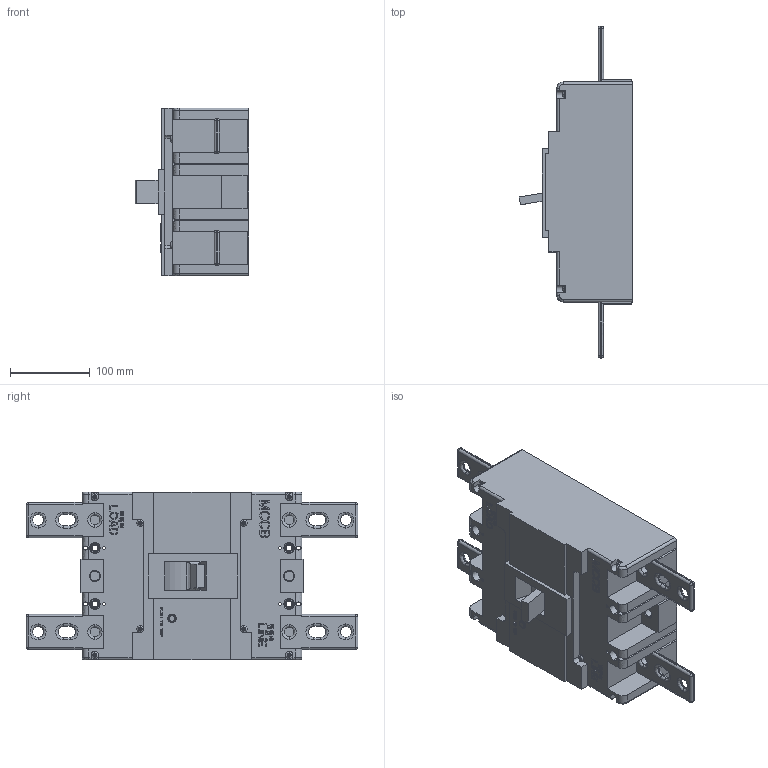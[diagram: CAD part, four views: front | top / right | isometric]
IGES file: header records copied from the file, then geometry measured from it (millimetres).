
Start section:  PTC IGES file: 26-metasol-mccb-800af-abl602c.igs
Global section: file name: 26-metasol-mccb-800af-abl602c.igs; native system: Pro/ENGINEER by Parametric Technology Corporation; preprocessor: 2010280; author: mgkimb; organization: Unknown; date: 20131029.143431; units: millimetre
Bounding box: 142.07 x 415 x 210 mm (x, y, z)
Surface area: 293696.7 mm2 (no closed solid volume)
Topology: 0 solids, 0 shells, 1267 faces, 6788 edges, 6788 vertices
Faces by surface type: bspline 1010, revolution 257
